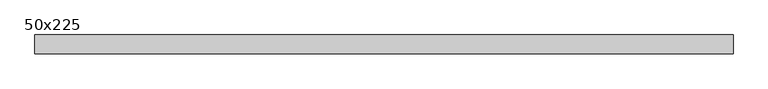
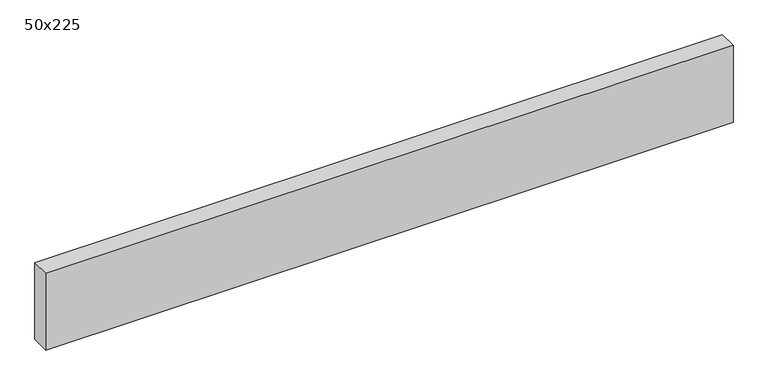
"""IFC4 building model written with IfcOpenShell, lengths in millimetres: beam geometry, Graded Timber : 50x225."""

from ifc_helpers import new_model, si_unit, frame, origin, place, context, project, spatial, polyline, outline, extrude, source, transform, mapped, element, save


def beam_50x225_5217d3c2(model_context):
    return source(origin(), model_context, "Body", "SweptSolid", [
        extrude(outline(polyline([(931.0, 25.0), (931.0, -25.0), (-931.0, -25.0), (-931.0, 25.0), (931.0, 25.0)])), frame((0.0, 0.0, -110.0), z_axis=(0.0, 0.0, 1.0), x_axis=(1.0, 0.0, 0.0)), (0.0, 0.0, 1.0), 220.0),
    ])


if __name__ == "__main__":
    model = new_model("IFC4")
    model_context = context("Model", 3, world=origin())
    ifc_project = project(units=[si_unit("LENGTHUNIT", "METRE", prefix="MILLI")], contexts=[model_context])
    site = spatial("IfcSite", under=ifc_project)
    building = spatial("IfcBuilding", under=site)
    placement = place(None, origin())
    beam_50x225_shape = beam_50x225_5217d3c2(model_context)
    element("IfcBeam", 1, ObjectType="Graded Timber : 50x225", at=placement, inside=building, context=model_context, shape_type="MappedRepresentation", body=[
        mapped(beam_50x225_shape, transform((0.0, 0.0, 0.0), x_axis=(1.0, 0.0, 0.0), y_axis=(0.0, 1.0, 0.0), z_axis=(0.0, 0.0, 1.0))),
    ])
    save(model, "model.ifc")
